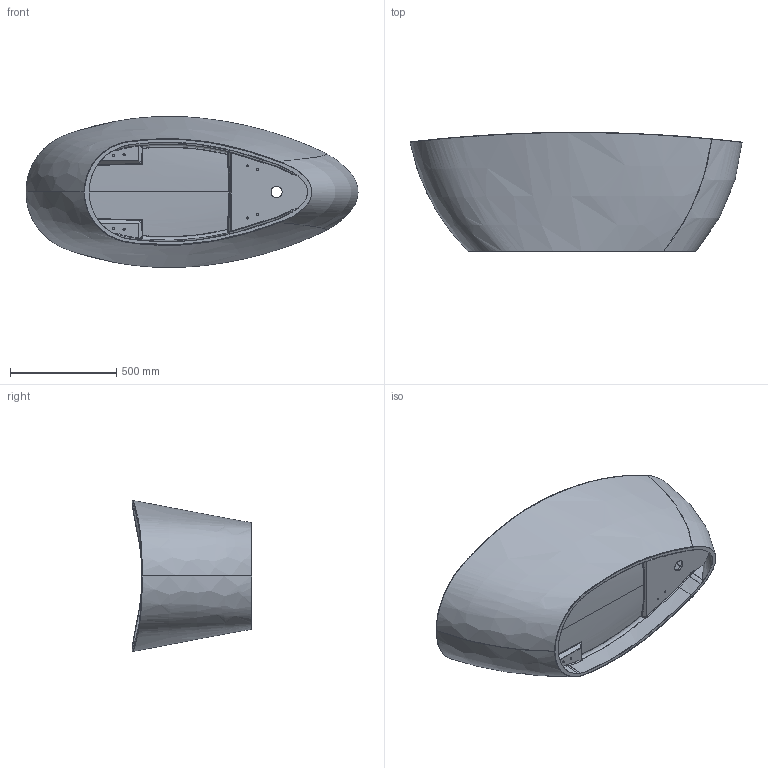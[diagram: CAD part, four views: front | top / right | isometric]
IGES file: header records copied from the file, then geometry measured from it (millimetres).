
Start section: SolidWorks IGES file using analytic representation for surfaces
Global section: file name: O:\BATHTUBS FILES\RITA 1560 F1280041.igs; native system: SolidWorks 2012; preprocessor: SolidWorks 2012; author: zbigniewp; date: 130508.105951; units: millimetre
Bounding box: 1560.3 x 560 x 710.08 mm (x, y, z)
Surface area: 4505329.9 mm2 (no closed solid volume)
Topology: 0 solids, 0 shells, 145 faces, 2941 edges, 2937 vertices
Faces by surface type: bspline 112, revolution 33
